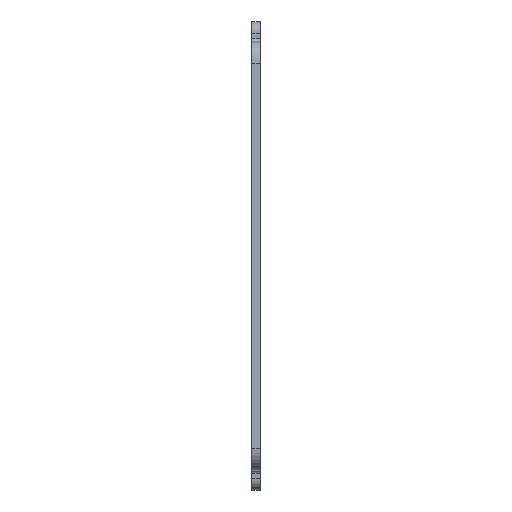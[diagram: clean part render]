
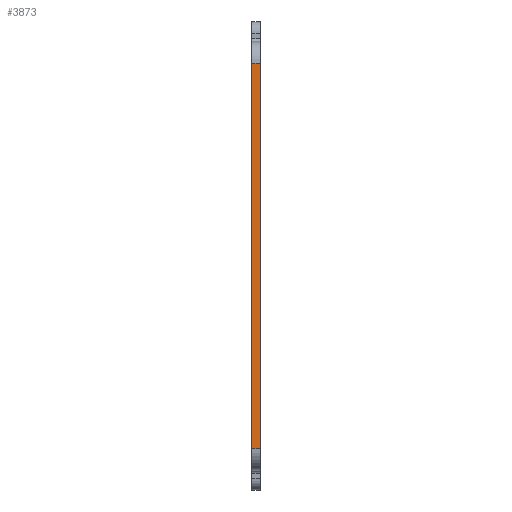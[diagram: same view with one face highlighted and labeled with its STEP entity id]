
A CAD part, left-side view. The second image highlights one B-rep face of the part: STEP entity #3873.
In plain terms, the highlighted planar face has unit normal (-1, 0, 0).
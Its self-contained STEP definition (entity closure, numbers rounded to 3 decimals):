
#136=DIRECTION('',(0.,0.,-1.));
#137=VECTOR('',#136,140.);
#138=CARTESIAN_POINT('',(-96.,-34.5,70.));
#139=LINE('',#138,#137);
#581=DIRECTION('',(0.,0.,-1.));
#582=VECTOR('',#581,140.);
#583=CARTESIAN_POINT('',(-96.,-31.5,70.));
#584=LINE('',#583,#582);
#1438=DIRECTION('',(0.,1.,0.));
#1439=VECTOR('',#1438,3.);
#1440=CARTESIAN_POINT('',(-96.,-34.5,-70.));
#1441=LINE('',#1440,#1439);
#1442=DIRECTION('',(0.,1.,0.));
#1443=VECTOR('',#1442,3.);
#1444=CARTESIAN_POINT('',(-96.,-34.5,70.));
#1445=LINE('',#1444,#1443);
#1613=CARTESIAN_POINT('',(-96.,-34.5,-70.));
#1615=VERTEX_POINT('',#1613);
#1623=CARTESIAN_POINT('',(-96.,-34.5,70.));
#1624=VERTEX_POINT('',#1623);
#1653=CARTESIAN_POINT('',(-96.,-31.5,-70.));
#1655=VERTEX_POINT('',#1653);
#1663=CARTESIAN_POINT('',(-96.,-31.5,70.));
#1664=VERTEX_POINT('',#1663);
#3861=CARTESIAN_POINT('',(-96.,-33.,0.));
#3862=DIRECTION('',(-1.,0.,0.));
#3863=DIRECTION('',(0.,0.,-1.));
#3864=AXIS2_PLACEMENT_3D('',#3861,#3862,#3863);
#3865=PLANE('',#3864);
#3866=ORIENTED_EDGE('',*,*,#2074,.T.);
#3867=ORIENTED_EDGE('',*,*,#3856,.T.);
#3868=ORIENTED_EDGE('',*,*,#2228,.F.);
#3870=ORIENTED_EDGE('',*,*,#3869,.F.);
#3871=EDGE_LOOP('',(#3866,#3867,#3868,#3870));
#3872=FACE_OUTER_BOUND('',#3871,.F.);
#3873=ADVANCED_FACE('',(#3872),#3865,.T.);
#2074=EDGE_CURVE('',#1624,#1615,#139,.T.);
#2228=EDGE_CURVE('',#1664,#1655,#584,.T.);
#3856=EDGE_CURVE('',#1615,#1655,#1441,.T.);
#3869=EDGE_CURVE('',#1624,#1664,#1445,.T.);
